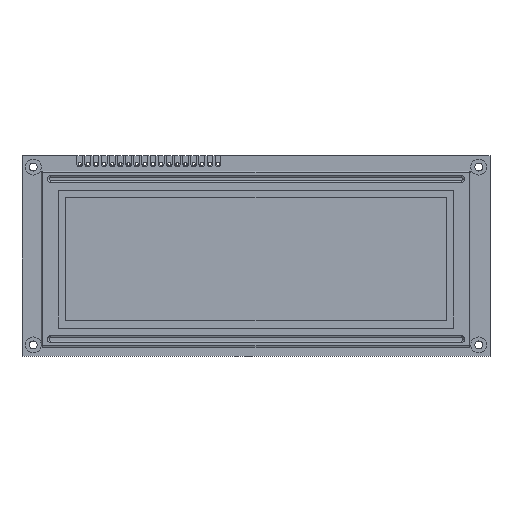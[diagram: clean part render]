
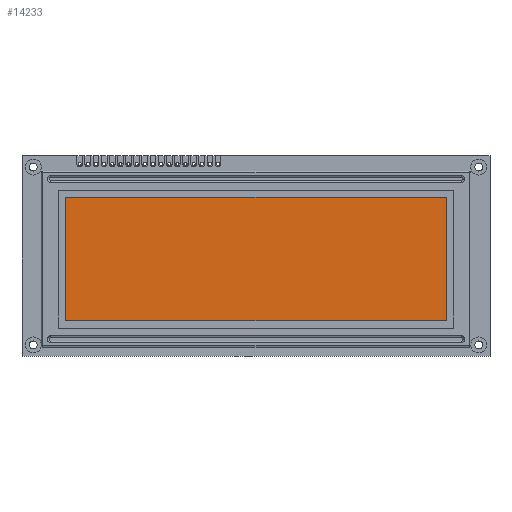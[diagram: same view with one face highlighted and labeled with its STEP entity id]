
A CAD part, top view. The second image highlights one B-rep face of the part: STEP entity #14233.
In plain terms, the highlighted planar face has unit normal (0, 0, 1).
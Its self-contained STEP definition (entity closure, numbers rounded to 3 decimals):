
#1715 = ORIENTED_EDGE ( 'NONE', *, *, #13417, .F. ) ;
#3850 = EDGE_CURVE ( 'NONE', #20521, #57742, #36698, .T. ) ;
#3879 = CARTESIAN_POINT ( 'NONE',  ( -59.42, 0., 10.6 ) ) ;
#8703 = LINE ( 'NONE', #20001, #20469 ) ;
#12021 = AXIS2_PLACEMENT_3D ( 'NONE', #37416, #38460, #16561 ) ;
#12337 = VERTEX_POINT ( 'NONE', #62898 ) ;
#13417 = EDGE_CURVE ( 'NONE', #12337, #57754, #66021, .T. ) ;
#14233 = ADVANCED_FACE ( 'NONE', ( #64310 ), #59675, .T. ) ;
#15168 = DIRECTION ( 'NONE',  ( -1., 0., 0. ) ) ;
#16561 = DIRECTION ( 'NONE',  ( 1., 0., 0. ) ) ;
#19086 = EDGE_CURVE ( 'NONE', #57754, #20521, #37044, .T. ) ;
#20001 = CARTESIAN_POINT ( 'NONE',  ( 0., 18.235, 10.6 ) ) ;
#20469 = VECTOR ( 'NONE', #30242, 1000. ) ;
#20521 = VERTEX_POINT ( 'NONE', #49006 ) ;
#21431 = ORIENTED_EDGE ( 'NONE', *, *, #19086, .F. ) ;
#23325 = VECTOR ( 'NONE', #28543, 1000. ) ;
#25848 = CARTESIAN_POINT ( 'NONE',  ( -59.42, 18.235, 10.6 ) ) ;
#25961 = EDGE_CURVE ( 'NONE', #57742, #12337, #8703, .T. ) ;
#25988 = VECTOR ( 'NONE', #30372, 1000. ) ;
#27336 = VECTOR ( 'NONE', #15168, 1000. ) ;
#28543 = DIRECTION ( 'NONE',  ( 0., -1., 0. ) ) ;
#30242 = DIRECTION ( 'NONE',  ( 1., 0., 0. ) ) ;
#30372 = DIRECTION ( 'NONE',  ( 0., 1., 0. ) ) ;
#31839 = CARTESIAN_POINT ( 'NONE',  ( 59.42, -20.235, 10.6 ) ) ;
#35605 = EDGE_LOOP ( 'NONE', ( #56672, #21431, #1715, #58547 ) ) ;
#36698 = LINE ( 'NONE', #3879, #25988 ) ;
#37044 = LINE ( 'NONE', #52643, #27336 ) ;
#37416 = CARTESIAN_POINT ( 'NONE',  ( 0., 0., 10.6 ) ) ;
#38460 = DIRECTION ( 'NONE',  ( 0., 0., 1. ) ) ;
#49006 = CARTESIAN_POINT ( 'NONE',  ( -59.42, -20.235, 10.6 ) ) ;
#52643 = CARTESIAN_POINT ( 'NONE',  ( 0., -20.235, 10.6 ) ) ;
#56672 = ORIENTED_EDGE ( 'NONE', *, *, #3850, .F. ) ;
#57742 = VERTEX_POINT ( 'NONE', #25848 ) ;
#57754 = VERTEX_POINT ( 'NONE', #31839 ) ;
#58547 = ORIENTED_EDGE ( 'NONE', *, *, #25961, .F. ) ;
#59675 = PLANE ( 'NONE',  #12021 ) ;
#62898 = CARTESIAN_POINT ( 'NONE',  ( 59.42, 18.235, 10.6 ) ) ;
#64310 = FACE_OUTER_BOUND ( 'NONE', #35605, .T. ) ;
#66021 = LINE ( 'NONE', #66382, #23325 ) ;
#66382 = CARTESIAN_POINT ( 'NONE',  ( 59.42, 0., 10.6 ) ) ;
